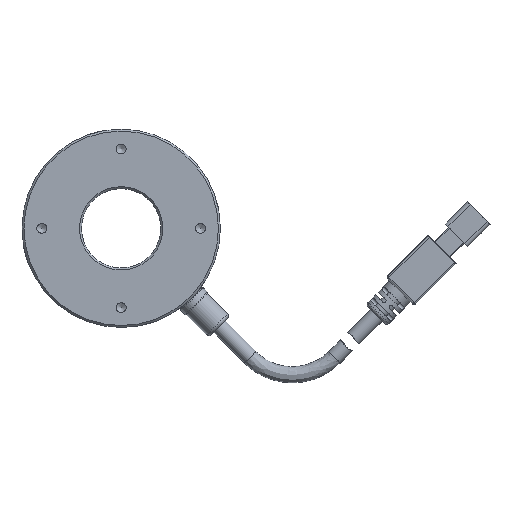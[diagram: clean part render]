
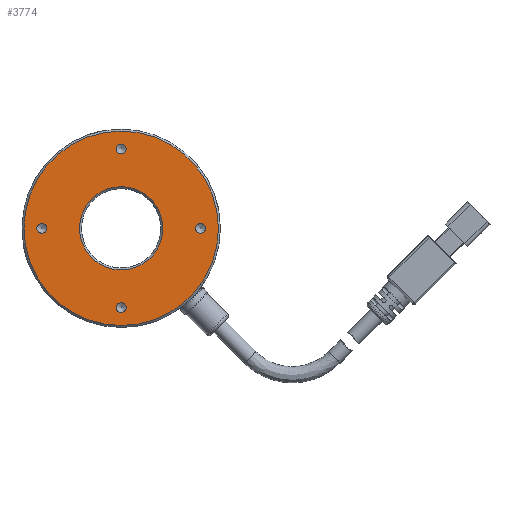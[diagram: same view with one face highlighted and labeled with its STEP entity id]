
A CAD part, front view. The second image highlights one B-rep face of the part: STEP entity #3774.
In plain terms, the highlighted planar face has unit normal (0, -1, 0).
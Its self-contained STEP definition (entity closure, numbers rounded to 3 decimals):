
#26 = CIRCLE ( 'NONE', #4976, 1.25 ) ;
#259 = DIRECTION ( 'NONE',  ( 0., 1., 0. ) ) ;
#293 = VERTEX_POINT ( 'NONE', #4765 ) ;
#411 = CARTESIAN_POINT ( 'NONE',  ( 15.974, -29.834, 0. ) ) ;
#432 = EDGE_CURVE ( 'NONE', #2557, #2557, #696, .T. ) ;
#584 = FACE_BOUND ( 'NONE', #4444, .T. ) ;
#696 = CIRCLE ( 'NONE', #1550, 24.5 ) ;
#924 = AXIS2_PLACEMENT_3D ( 'NONE', #2421, #8024, #2498 ) ;
#1012 = DIRECTION ( 'NONE',  ( 0., 0., 1. ) ) ;
#1135 = EDGE_CURVE ( 'NONE', #2112, #2112, #6423, .T. ) ;
#1550 = AXIS2_PLACEMENT_3D ( 'NONE', #11678, #9945, #1557 ) ;
#1557 = DIRECTION ( 'NONE',  ( -1., 0., 0. ) ) ;
#2112 = VERTEX_POINT ( 'NONE', #7641 ) ;
#2144 = AXIS2_PLACEMENT_3D ( 'NONE', #7954, #4330, #10775 ) ;
#2421 = CARTESIAN_POINT ( 'NONE',  ( -4.026, -29.834, 0. ) ) ;
#2463 = FACE_BOUND ( 'NONE', #5923, .T. ) ;
#2470 = ORIENTED_EDGE ( 'NONE', *, *, #1135, .T. ) ;
#2498 = DIRECTION ( 'NONE',  ( 0., 0., -1. ) ) ;
#2557 = VERTEX_POINT ( 'NONE', #8390 ) ;
#2780 = ORIENTED_EDGE ( 'NONE', *, *, #4945, .T. ) ;
#2896 = ORIENTED_EDGE ( 'NONE', *, *, #6393, .T. ) ;
#3708 = DIRECTION ( 'NONE',  ( 0., 1., 0. ) ) ;
#3774 = ADVANCED_FACE ( 'NONE', ( #6785, #584, #6218, #8847, #2463, #6362 ), #5262, .F. ) ;
#3944 = ORIENTED_EDGE ( 'NONE', *, *, #432, .F. ) ;
#3978 = AXIS2_PLACEMENT_3D ( 'NONE', #10971, #3708, #11977 ) ;
#4135 = AXIS2_PLACEMENT_3D ( 'NONE', #411, #259, #8629 ) ;
#4195 = ORIENTED_EDGE ( 'NONE', *, *, #8123, .T. ) ;
#4330 = DIRECTION ( 'NONE',  ( 0., 1., 0. ) ) ;
#4444 = EDGE_LOOP ( 'NONE', ( #8292 ) ) ;
#4765 = CARTESIAN_POINT ( 'NONE',  ( -24.026, -29.834, 1.25 ) ) ;
#4790 = VERTEX_POINT ( 'NONE', #11357 ) ;
#4945 = EDGE_CURVE ( 'NONE', #293, #293, #26, .T. ) ;
#4976 = AXIS2_PLACEMENT_3D ( 'NONE', #11183, #6556, #1012 ) ;
#5208 = CARTESIAN_POINT ( 'NONE',  ( -14.026, -29.834, 0. ) ) ;
#5262 = PLANE ( 'NONE',  #10043 ) ;
#5502 = CIRCLE ( 'NONE', #924, 10.5 ) ;
#5914 = EDGE_LOOP ( 'NONE', ( #3944 ) ) ;
#5923 = EDGE_LOOP ( 'NONE', ( #2470 ) ) ;
#6218 = FACE_BOUND ( 'NONE', #11036, .T. ) ;
#6362 = FACE_BOUND ( 'NONE', #6415, .T. ) ;
#6393 = EDGE_CURVE ( 'NONE', #7210, #7210, #6657, .T. ) ;
#6415 = EDGE_LOOP ( 'NONE', ( #4195 ) ) ;
#6423 = CIRCLE ( 'NONE', #3978, 1.25 ) ;
#6498 = VERTEX_POINT ( 'NONE', #9408 ) ;
#6556 = DIRECTION ( 'NONE',  ( 0., 1., 0. ) ) ;
#6657 = CIRCLE ( 'NONE', #2144, 1.25 ) ;
#6733 = EDGE_CURVE ( 'NONE', #6498, #6498, #5502, .T. ) ;
#6785 = FACE_OUTER_BOUND ( 'NONE', #5914, .T. ) ;
#7210 = VERTEX_POINT ( 'NONE', #10426 ) ;
#7641 = CARTESIAN_POINT ( 'NONE',  ( -4.026, -29.834, 21.25 ) ) ;
#7954 = CARTESIAN_POINT ( 'NONE',  ( -4.026, -29.834, -20. ) ) ;
#8024 = DIRECTION ( 'NONE',  ( 0., -1., 0. ) ) ;
#8123 = EDGE_CURVE ( 'NONE', #4790, #4790, #9536, .T. ) ;
#8292 = ORIENTED_EDGE ( 'NONE', *, *, #6733, .F. ) ;
#8390 = CARTESIAN_POINT ( 'NONE',  ( -28.526, -29.834, 0. ) ) ;
#8629 = DIRECTION ( 'NONE',  ( 0., 0., 1. ) ) ;
#8847 = FACE_BOUND ( 'NONE', #9692, .T. ) ;
#9408 = CARTESIAN_POINT ( 'NONE',  ( -4.026, -29.834, -10.5 ) ) ;
#9536 = CIRCLE ( 'NONE', #4135, 1.25 ) ;
#9692 = EDGE_LOOP ( 'NONE', ( #2780 ) ) ;
#9945 = DIRECTION ( 'NONE',  ( 0., 1., 0. ) ) ;
#10043 = AXIS2_PLACEMENT_3D ( 'NONE', #5208, #10724, #10689 ) ;
#10426 = CARTESIAN_POINT ( 'NONE',  ( -4.026, -29.834, -18.75 ) ) ;
#10689 = DIRECTION ( 'NONE',  ( 0., 0., 1. ) ) ;
#10724 = DIRECTION ( 'NONE',  ( 0., 1., 0. ) ) ;
#10775 = DIRECTION ( 'NONE',  ( 0., 0., 1. ) ) ;
#10971 = CARTESIAN_POINT ( 'NONE',  ( -4.026, -29.834, 20. ) ) ;
#11036 = EDGE_LOOP ( 'NONE', ( #2896 ) ) ;
#11183 = CARTESIAN_POINT ( 'NONE',  ( -24.026, -29.834, 0. ) ) ;
#11357 = CARTESIAN_POINT ( 'NONE',  ( 15.974, -29.834, 1.25 ) ) ;
#11678 = CARTESIAN_POINT ( 'NONE',  ( -4.026, -29.834, 0. ) ) ;
#11977 = DIRECTION ( 'NONE',  ( 0., 0., 1. ) ) ;
